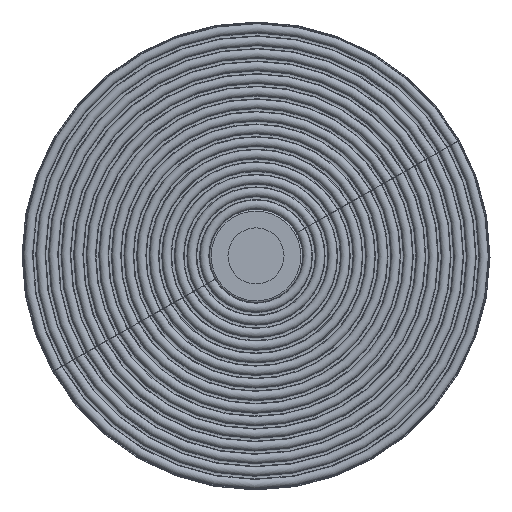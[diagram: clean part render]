
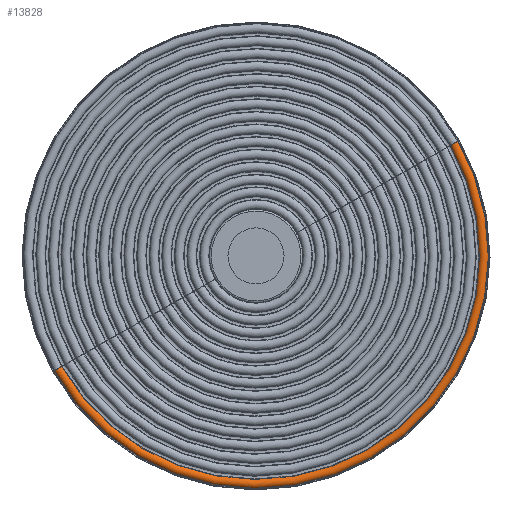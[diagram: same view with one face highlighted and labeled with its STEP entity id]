
A CAD part, top view. The second image highlights one B-rep face of the part: STEP entity #13828.
In plain terms, the highlighted toroidal (fillet/blend) face has major radius 487.848 mm and minor radius 10.5 mm.
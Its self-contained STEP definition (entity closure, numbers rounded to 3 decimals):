
#122 = CARTESIAN_POINT ( 'NONE',  ( 587.442, 216.052, 1029.402 ) ) ;
#1490 = ORIENTED_EDGE ( 'NONE', *, *, #14136, .F. ) ;
#1709 = EDGE_CURVE ( 'NONE', #12898, #3242, #2950, .T. ) ;
#1862 = DIRECTION ( 'NONE',  ( 0.869, 0.494, 0. ) ) ;
#2950 = CIRCLE ( 'NONE', #16583, 498.325 ) ;
#3242 = VERTEX_POINT ( 'NONE', #6696 ) ;
#3769 = CARTESIAN_POINT ( 'NONE',  ( 578.333, 210.875, 1030.089 ) ) ;
#4041 = EDGE_LOOP ( 'NONE', ( #4444, #17848, #10990, #1490 ) ) ;
#4380 = DIRECTION ( 'NONE',  ( 0., 0., 1. ) ) ;
#4444 = ORIENTED_EDGE ( 'NONE', *, *, #1709, .T. ) ;
#4530 = CARTESIAN_POINT ( 'NONE',  ( -269.96, -271.184, 1030.089 ) ) ;
#4562 = CIRCLE ( 'NONE', #7407, 477.37 ) ;
#4762 = AXIS2_PLACEMENT_3D ( 'NONE', #11197, #14485, #16149 ) ;
#5706 = CARTESIAN_POINT ( 'NONE',  ( 163.296, -24.978, 1029.402 ) ) ;
#6696 = CARTESIAN_POINT ( 'NONE',  ( 596.552, 221.228, 1030.089 ) ) ;
#7182 = DIRECTION ( 'NONE',  ( 0., 0., 1. ) ) ;
#7407 = AXIS2_PLACEMENT_3D ( 'NONE', #7649, #7442, #17052 ) ;
#7442 = DIRECTION ( 'NONE',  ( 0., 0., 1. ) ) ;
#7649 = CARTESIAN_POINT ( 'NONE',  ( 163.296, -24.978, 1030.089 ) ) ;
#7694 = VERTEX_POINT ( 'NONE', #7958 ) ;
#7958 = CARTESIAN_POINT ( 'NONE',  ( -251.741, -260.83, 1030.089 ) ) ;
#8408 = VERTEX_POINT ( 'NONE', #3769 ) ;
#8968 = AXIS2_PLACEMENT_3D ( 'NONE', #122, #14645, #1862 ) ;
#10572 = DIRECTION ( 'NONE',  ( -0.869, -0.494, 0. ) ) ;
#10990 = ORIENTED_EDGE ( 'NONE', *, *, #13340, .F. ) ;
#11197 = CARTESIAN_POINT ( 'NONE',  ( -260.851, -266.007, 1029.402 ) ) ;
#11860 = DIRECTION ( 'NONE',  ( -0.869, -0.494, 0. ) ) ;
#11931 = CARTESIAN_POINT ( 'NONE',  ( 163.296, -24.978, 1030.089 ) ) ;
#12536 = EDGE_CURVE ( 'NONE', #3242, #8408, #15340, .T. ) ;
#12898 = VERTEX_POINT ( 'NONE', #4530 ) ;
#13252 = TOROIDAL_SURFACE ( 'NONE', #16364, 487.848, 10.5 ) ;
#13340 = EDGE_CURVE ( 'NONE', #7694, #8408, #4562, .T. ) ;
#13828 = ADVANCED_FACE ( 'NONE', ( #15023 ), #13252, .T. ) ;
#13834 = CIRCLE ( 'NONE', #4762, 10.5 ) ;
#14136 = EDGE_CURVE ( 'NONE', #12898, #7694, #13834, .T. ) ;
#14485 = DIRECTION ( 'NONE',  ( -0.494, 0.869, 0. ) ) ;
#14645 = DIRECTION ( 'NONE',  ( 0.494, -0.869, 0. ) ) ;
#15023 = FACE_OUTER_BOUND ( 'NONE', #4041, .T. ) ;
#15340 = CIRCLE ( 'NONE', #8968, 10.5 ) ;
#16149 = DIRECTION ( 'NONE',  ( -0.869, -0.494, 0. ) ) ;
#16364 = AXIS2_PLACEMENT_3D ( 'NONE', #5706, #4380, #10572 ) ;
#16583 = AXIS2_PLACEMENT_3D ( 'NONE', #11931, #7182, #11860 ) ;
#17052 = DIRECTION ( 'NONE',  ( -0.869, -0.494, 0. ) ) ;
#17848 = ORIENTED_EDGE ( 'NONE', *, *, #12536, .T. ) ;
